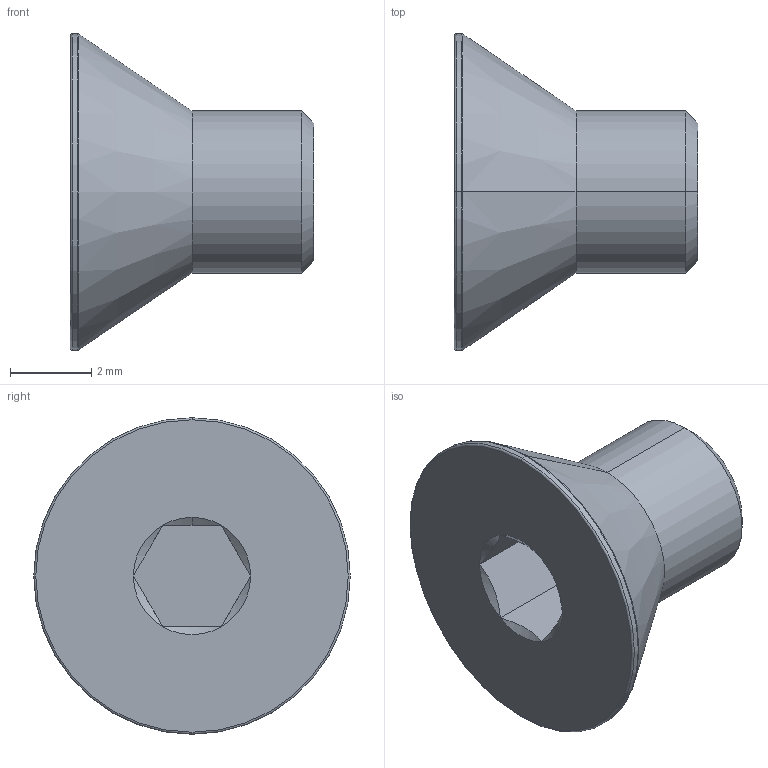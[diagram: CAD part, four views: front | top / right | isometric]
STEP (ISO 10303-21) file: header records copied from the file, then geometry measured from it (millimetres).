
FILE_DESCRIPTION (( 'STEP AP203' ), '1' );
FILE_NAME ('LGDB-304-M4x6.STEP', '2026-08-12T01:20:37', ( '' ), ( '' ), 'SwSTEP 2.0', 'SolidWorks 2020', '' );
FILE_SCHEMA (( 'CONFIG_CONTROL_DESIGN' ));
Length unit declared in the file: millimetre
Products named in the file (1): LGDB-304-M4x6
Bounding box: 6 x 7.8 x 7.8 mm (x, y, z)
Volume: 115 mm3; surface area: 179.6 mm2
Topology: 1 solids, 1 shells, 28 faces, 53 edges, 28 vertices
Faces by surface type: cone 11, plane 9, torus 4, cylinder 4
Entity records: 792 total; most frequent: CARTESIAN_POINT 153, DIRECTION 129, ORIENTED_EDGE 106, AXIS2_PLACEMENT_3D 54, EDGE_CURVE 53, EDGE_LOOP 29, ADVANCED_FACE 28, VERTEX_POINT 28
